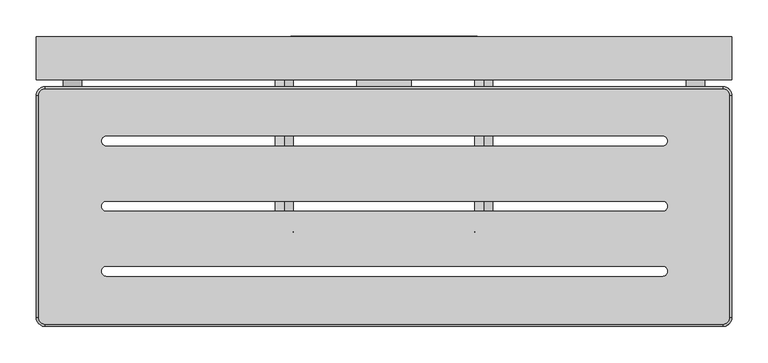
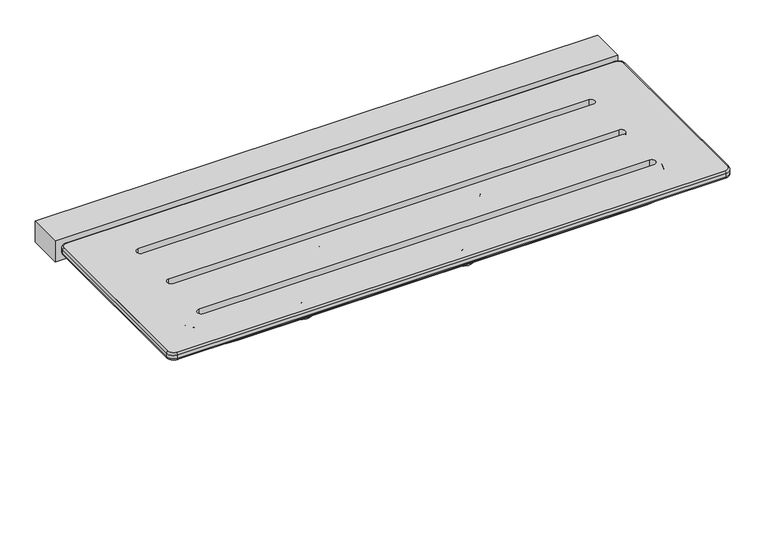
"""IFC4 building model written with IfcOpenShell, lengths in millimetres: proxy geometry, Shower Seat_Metlam_Folding_Guide Bracket : 960w x 400d x 295h (ML994)."""

from ifc_helpers import new_model, si_unit, point, frame, frame_2d, origin, place, context, project, spatial, polyline, circle_curve, ellipse_curve, trimmed, segment, composite_curve, outline, extrude, source, transform, mapped, element, save
from ifc_brep_helpers import plane_surface, cylinder_surface, revolved_surface, advanced_brep


def specialty_equipment_e2bc4629(model_context):
    return source(origin(), model_context, "Body", "SolidModel", [
        advanced_brep(
        [(-319.8282526, -259.8858079, 223.2607925), (-344.8282526, -259.8858079, 223.2607925), (-69.8282526, -259.8858079, 223.2607925), (-44.8282526, -259.8858079, 223.2607925), (-319.8282526, -244.1285308, 214.3232161), (-344.8282526, -244.1285308, 214.3232161), (-319.5782526, -222.165526, 201.8657317), (-319.5782526, -243.9110753, 214.1998747), (-70.0782526, -243.9110753, 214.1998747), (-70.0782526, -222.165526, 201.8657317), (-44.8282526, -244.1285308, 214.3232161), (-69.8282526, -244.1285308, 214.3232161)],
        [
            (0, 1, circle_curve(frame((-332.3282526, -259.8858079, 223.2607925), z_axis=(0.0, -0.8698219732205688, 0.4933657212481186), x_axis=(-1.0, 0.0, 0.0)), 12.5)),
            (1, 0, circle_curve(frame((-332.3282526, -259.8858079, 223.2607925), z_axis=(0.0, -0.8698219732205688, 0.4933657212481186), x_axis=(-1.0, 0.0, 0.0)), 12.5)),
            (2, 3, circle_curve(frame((-57.3282526, -259.8858079, 223.2607925), z_axis=(0.0, -0.8698219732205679, 0.4933657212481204), x_axis=(1.0, 0.0, 0.0)), 12.5)),
            (3, 2, circle_curve(frame((-57.3282526, -259.8858079, 223.2607925), z_axis=(0.0, -0.8698219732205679, 0.4933657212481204), x_axis=(1.0, 0.0, 0.0)), 12.5)),
            (0, 4),
            (4, 5, circle_curve(frame((-332.3282526, -244.1285308, 214.3232161), z_axis=(0.0, -0.8698219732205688, 0.4933657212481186), x_axis=(-1.0, 0.0, 0.0)), 12.5)),
            (5, 1),
            (5, 4, circle_curve(frame((-332.3282526, -244.1285308, 214.3232161), z_axis=(0.0, -0.8698219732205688, 0.4933657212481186), x_axis=(-1.0, 0.0, 0.0)), 12.5)),
            (6, 5, circle_curve(frame((-319.5782526, -244.1285308, 214.3232161), z_axis=(0.0, 0.4933657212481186, 0.8698219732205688), x_axis=(-1.0, 0.0, 0.0)), 25.25)),
            (4, 7, circle_curve(frame((-319.5782526, -244.1285308, 214.3232161), z_axis=(0.0, -0.4933657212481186, -0.8698219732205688), x_axis=(-1.0, 0.0, 0.0)), 0.25)),
            (7, 6, circle_curve(frame((-319.5782526, -233.0383007, 208.0328032), z_axis=(-1.0, 0.0, 0.0), x_axis=(0.0, 0.8698219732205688, -0.4933657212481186)), 12.5)),
            (6, 7, circle_curve(frame((-319.5782526, -233.0383007, 208.0328032), z_axis=(-1.0, 0.0, 0.0), x_axis=(0.0, 0.8698219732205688, -0.4933657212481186)), 12.5)),
            (7, 8),
            (8, 9, circle_curve(frame((-70.0782526, -233.0383007, 208.0328032), z_axis=(-1.0, 0.0, 0.0), x_axis=(0.0, 0.8698219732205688, -0.49336572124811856)), 12.5)),
            (9, 6),
            (9, 8, circle_curve(frame((-70.0782526, -233.0383007, 208.0328032), z_axis=(-1.0, 0.0, 0.0), x_axis=(0.0, 0.8698219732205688, -0.49336572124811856)), 12.5)),
            (10, 9, circle_curve(frame((-70.0782526, -244.1285308, 214.3232161), z_axis=(0.0, 0.4933657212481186, 0.8698219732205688), x_axis=(0.0, 0.8698219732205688, -0.4933657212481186)), 25.25)),
            (8, 11, circle_curve(frame((-70.0782526, -244.1285308, 214.3232161), z_axis=(0.0, -0.4933657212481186, -0.8698219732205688), x_axis=(0.0, 0.8698219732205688, -0.4933657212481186)), 0.25)),
            (11, 10, circle_curve(frame((-57.3282526, -244.1285308, 214.3232161), z_axis=(0.0, 0.8698219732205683, -0.4933657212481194), x_axis=(1.0000000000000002, 0.0, 0.0)), 12.5)),
            (10, 11, circle_curve(frame((-57.3282526, -244.1285308, 214.3232161), z_axis=(0.0, 0.8698219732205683, -0.4933657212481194), x_axis=(1.0000000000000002, 0.0, 0.0)), 12.5)),
            (11, 2),
            (3, 10),
        ],
        [
            plane_surface(frame((-332.3282526, -259.8859571, 223.2605295), z_axis=(0.0, -0.8698219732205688, 0.4933657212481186), x_axis=(0.0, 0.4933657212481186, 0.8698219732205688))),
            plane_surface(frame((-57.3282526, -259.8859571, 223.2605295), z_axis=(0.0, -0.8698219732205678, 0.4933657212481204), x_axis=(0.0, 0.4933657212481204, 0.8698219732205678))),
            cylinder_surface(frame((-332.3282526, -259.8858079, 223.2607925), z_axis=(0.0, -0.8698219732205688, 0.4933657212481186), x_axis=(-1.0, 0.0, 0.0)), 12.5),
            revolved_surface(trimmed(ellipse_curve(frame((-332.3282526, -244.1285308, 214.3232161), z_axis=(0.0, -0.8698219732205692, 0.49336572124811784), x_axis=(-1.0, 0.0, 0.0)), 12.5, 12.5), [point((-319.8282526, -244.1285308, 214.3232161))], [point((-344.8282526, -244.1285308, 214.3232161))], True, "CARTESIAN"), (-319.5782526, -244.12868, 214.3229531), (0.0, -0.4933657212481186, -0.8698219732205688)),
            revolved_surface(trimmed(ellipse_curve(frame((-332.3282526, -244.1285308, 214.3232161), z_axis=(0.0, -0.8698219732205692, 0.49336572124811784), x_axis=(-1.0, 0.0, 0.0)), 12.5, 12.5), [point((-344.8282526, -244.1285308, 214.3232161))], [point((-319.8282526, -244.1285308, 214.3232161))], True, "CARTESIAN"), (-319.5782526, -244.12868, 214.3229531), (0.0, -0.4933657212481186, -0.8698219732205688)),
            cylinder_surface(frame((-319.5782526, -233.0383007, 208.0328032), z_axis=(-1.0, 0.0, 0.0), x_axis=(0.0, 0.8698219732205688, -0.49336572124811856)), 12.5),
            revolved_surface(trimmed(ellipse_curve(frame((-70.0782526, -233.0383007, 208.0328032), z_axis=(-1.0000000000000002, 0.0, 0.0), x_axis=(0.0, 0.8698219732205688, -0.4933657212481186)), 12.5, 12.5), [point((-70.0782526, -243.9110753, 214.1998747))], [point((-70.0782526, -222.165526, 201.8657317))], True, "CARTESIAN"), (-70.0782526, -244.12868, 214.3229531), (0.0, -0.4933657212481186, -0.8698219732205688)),
            revolved_surface(trimmed(ellipse_curve(frame((-70.0782526, -233.0383007, 208.0328032), z_axis=(-1.0000000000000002, 0.0, 0.0), x_axis=(0.0, 0.8698219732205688, -0.4933657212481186)), 12.5, 12.5), [point((-70.0782526, -222.165526, 201.8657317))], [point((-70.0782526, -243.9110753, 214.1998747))], True, "CARTESIAN"), (-70.0782526, -244.12868, 214.3229531), (0.0, -0.4933657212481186, -0.8698219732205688)),
            cylinder_surface(frame((-57.3282526, -244.1285308, 214.3232161), z_axis=(0.0, 0.8698219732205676, -0.4933657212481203), x_axis=(1.0, 0.0, 0.0)), 12.5),
        ],
        [
            (0, [[1, 2]]),
            (1, [[3, 4]]),
            (2, [[-1, 5, 6, 7]]),
            (2, [[-2, -7, 8, -5]]),
            (3, [[9, -6, 10, 11]]),
            (4, [[-10, -8, -9, 12]]),
            (5, [[-11, 13, 14, 15]]),
            (5, [[-12, -15, 16, -13]]),
            (6, [[17, -14, 18, 19]]),
            (7, [[-18, -16, -17, 20]]),
            (8, [[-19, 21, -4, 22]]),
            (8, [[-20, -22, -3, -21]]),
        ],
    ),
        advanced_brep(
        [(-232.3282526, -323.4788188, 397.6081403), (-232.3282526, -319.6061703, 401.4807889), (-232.3282526, -227.3973081, 401.4807889), (-232.3282526, -222.9636972, 405.9143998), (-232.3282526, -222.9636972, 424.5206595), (-232.3282526, -220.8995044, 424.5206595), (-232.3282526, -220.8995044, 405.9143998), (-232.3282526, -227.3331153, 399.4807889), (-232.3282526, -290.6176067, 399.4807889), (-232.3282526, -290.6176067, 290.4673721), (-232.3282526, -289.2824441, 286.8369488), (-232.3282526, -242.2405245, 231.5317276), (-232.3282526, -231.6334303, 222.154967), (-232.3282526, -226.2684003, 218.6257089), (-232.3282526, -220.8196238, 205.1713333), (-232.3282526, -221.4186561, 199.7314093), (-232.3282526, -221.4186561, 180.0), (-232.3282526, -223.2117906, 180.0), (-232.3282526, -223.2117906, 194.5240233), (-232.3282526, -224.1808288, 195.2771128), (-232.3282526, -238.8758803, 195.2771128), (-232.3282526, -250.8677354, 200.2443018), (-232.3282526, -319.9824701, 269.3590365), (-232.3282526, -323.4788188, 278.1312848), (-157.3282526, -323.4788188, 397.6081403), (-157.3282526, -323.4788188, 278.1312848), (-157.3282526, -319.9824701, 269.3590365), (-157.3282526, -250.8677354, 200.2443018), (-157.3282526, -238.8758803, 195.2771128), (-157.3282526, -224.1808288, 195.2771128), (-157.3282526, -223.2117906, 194.5240233), (-157.3282526, -223.2117906, 180.0), (-157.3282526, -221.4186561, 180.0), (-157.3282526, -221.4186561, 199.7314093), (-157.3282526, -220.8196238, 205.1713333), (-157.3282526, -226.2684003, 218.6257089), (-157.3282526, -231.6334303, 222.154967), (-157.3282526, -242.2405245, 231.5317276), (-157.3282526, -289.2824441, 286.8369488), (-157.3282526, -290.6176067, 290.4673721), (-157.3282526, -290.6176067, 399.4807889), (-157.3282526, -227.3331153, 399.4807889), (-157.3282526, -220.8995044, 405.9143998), (-157.3282526, -220.8995044, 424.5206595), (-157.3282526, -222.9636972, 424.5206595), (-157.3282526, -222.9636972, 405.9143998), (-157.3282526, -227.3973081, 401.4807889), (-157.3282526, -319.6061703, 401.4807889), (-219.8327407, -221.4186561, 187.6120514), (-211.8237645, -221.4186561, 187.6120514), (-177.8327407, -221.4186561, 187.6120514), (-169.8237645, -221.4186561, 187.6120514), (-211.8237645, -223.2117906, 187.6120514), (-219.8327407, -223.2117906, 187.6120514), (-169.8237645, -223.2117906, 187.6120514), (-177.8327407, -223.2117906, 187.6120514), (-169.8282526, -222.9636972, 414.4697674), (-177.8282526, -222.9636972, 414.4697674), (-211.8282526, -222.9636972, 414.4697674), (-219.8282526, -222.9636972, 414.4697674), (-177.8282526, -220.8995044, 414.4697674), (-169.8282526, -220.8995044, 414.4697674), (-219.8282526, -220.8995044, 414.4697674), (-211.8282526, -220.8995044, 414.4697674)],
        [
            (0, 1, circle_curve(frame((-232.3282526, -319.6061703, 397.6081403), z_axis=(-1.0, 0.0, 0.0), x_axis=(0.0, 0.0, 1.0)), 3.8726485)),
            (1, 2),
            (2, 3, circle_curve(frame((-232.3282526, -227.3973081, 405.9143998), z_axis=(1.0, 0.0, 0.0), x_axis=(0.0, 0.0, 1.0)), 4.4336109)),
            (3, 4),
            (4, 5),
            (5, 6),
            (6, 7, circle_curve(frame((-232.3282526, -227.3331153, 405.9143998), z_axis=(-1.0, 0.0, 0.0), x_axis=(0.0, 0.0, 1.0)), 6.4336109)),
            (7, 8),
            (8, 9),
            (9, 10, circle_curve(frame((-232.3282526, -285.014307, 290.4673721), z_axis=(1.0, 0.0, 0.0), x_axis=(0.0, 0.0, 1.0)), 5.6032997)),
            (10, 11),
            (11, 12, circle_curve(frame((-232.3282526, -204.154599, 263.9271327), z_axis=(1.0, 0.0, 0.0), x_axis=(0.0, 0.0, 1.0)), 50.0)),
            (12, 13),
            (13, 14, circle_curve(frame((-232.3282526, -233.2901738, 207.9515035), z_axis=(-1.0, 0.0, 0.0), x_axis=(0.0, 0.0, 1.0)), 12.7766961)),
            (14, 15, circle_curve(frame((-232.3282526, -196.4186561, 199.7314093), z_axis=(1.0, 0.0, 0.0), x_axis=(0.0, 0.0, 1.0)), 25.0)),
            (15, 16),
            (16, 17),
            (17, 18),
            (18, 19, circle_curve(frame((-232.3282526, -224.1808288, 194.2771128), z_axis=(1.0, 0.0, 0.0), x_axis=(0.0, 0.0, 1.0)), 1.0)),
            (19, 20),
            (20, 21, circle_curve(frame((-232.3282526, -238.8758803, 212.2361568), z_axis=(-1.0, 0.0, 0.0), x_axis=(0.0, 0.0, 1.0)), 16.9590441)),
            (21, 22),
            (22, 23, circle_curve(frame((-232.3282526, -310.7259726, 278.1312848), z_axis=(-1.0, 0.0, 0.0), x_axis=(0.0, 0.0, 1.0)), 12.7528462)),
            (23, 0),
            (24, 25),
            (25, 26, circle_curve(frame((-157.3282526, -310.7259726, 278.1312848), z_axis=(1.0, 0.0, 0.0), x_axis=(0.0, 0.0, 1.0)), 12.7528462)),
            (26, 27),
            (27, 28, circle_curve(frame((-157.3282526, -238.8758803, 212.2361568), z_axis=(1.0, 0.0, 0.0), x_axis=(0.0, 0.0, 1.0)), 16.9590441)),
            (28, 29),
            (29, 30, circle_curve(frame((-157.3282526, -224.1808288, 194.2771128), z_axis=(-1.0, 0.0, 0.0), x_axis=(0.0, 0.0, 1.0)), 1.0)),
            (30, 31),
            (31, 32),
            (32, 33),
            (33, 34, circle_curve(frame((-157.3282526, -196.4186561, 199.7314093), z_axis=(-1.0, 0.0, 0.0), x_axis=(0.0, 0.0, 1.0)), 25.0)),
            (34, 35, circle_curve(frame((-157.3282526, -233.2901738, 207.9515035), z_axis=(1.0, 0.0, 0.0), x_axis=(0.0, 0.0, 1.0)), 12.7766961)),
            (35, 36),
            (36, 37, circle_curve(frame((-157.3282526, -204.154599, 263.9271327), z_axis=(-1.0, 0.0, 0.0), x_axis=(0.0, 0.0, 1.0)), 50.0)),
            (37, 38),
            (38, 39, circle_curve(frame((-157.3282526, -285.014307, 290.4673721), z_axis=(-1.0, 0.0, 0.0), x_axis=(0.0, 0.0, 1.0)), 5.6032997)),
            (39, 40),
            (40, 41),
            (41, 42, circle_curve(frame((-157.3282526, -227.3331153, 405.9143998), z_axis=(1.0, 0.0, 0.0), x_axis=(0.0, 0.0, 1.0)), 6.4336109)),
            (42, 43),
            (43, 44),
            (44, 45),
            (45, 46, circle_curve(frame((-157.3282526, -227.3973081, 405.9143998), z_axis=(-1.0, 0.0, 0.0), x_axis=(0.0, 0.0, 1.0)), 4.4336109)),
            (46, 47),
            (47, 24, circle_curve(frame((-157.3282526, -319.6061703, 397.6081403), z_axis=(1.0, 0.0, 0.0), x_axis=(0.0, 0.0, 1.0)), 3.8726485)),
            (21, 27),
            (26, 22),
            (25, 23),
            (24, 0),
            (47, 1),
            (8, 40),
            (39, 9),
            (38, 10),
            (37, 11),
            (46, 2),
            (7, 41),
            (15, 33),
            (32, 16),
            (48, 49, circle_curve(frame((-215.8282526, -221.4186561, 187.6120514), z_axis=(0.0, -1.0, 0.0), x_axis=(1.0, 0.0, 0.0)), 4.0044881)),
            (49, 48, circle_curve(frame((-215.8282526, -221.4186561, 187.6120514), z_axis=(0.0, -1.0, 0.0), x_axis=(1.0, 0.0, 0.0)), 4.0044881)),
            (50, 51, circle_curve(frame((-173.8282526, -221.4186561, 187.6120514), z_axis=(0.0, -1.0, 0.0), x_axis=(1.0, 0.0, 0.0)), 4.0044881)),
            (51, 50, circle_curve(frame((-173.8282526, -221.4186561, 187.6120514), z_axis=(0.0, -1.0, 0.0), x_axis=(1.0, 0.0, 0.0)), 4.0044881)),
            (17, 31),
            (30, 18),
            (52, 53, circle_curve(frame((-215.8282526, -223.2117906, 187.6120514), z_axis=(0.0, 1.0, 0.0), x_axis=(1.0, 0.0, 0.0)), 4.0044881)),
            (53, 52, circle_curve(frame((-215.8282526, -223.2117906, 187.6120514), z_axis=(0.0, 1.0, 0.0), x_axis=(1.0, 0.0, 0.0)), 4.0044881)),
            (54, 55, circle_curve(frame((-173.8282526, -223.2117906, 187.6120514), z_axis=(0.0, 1.0, 0.0), x_axis=(1.0, 0.0, 0.0)), 4.0044881)),
            (55, 54, circle_curve(frame((-173.8282526, -223.2117906, 187.6120514), z_axis=(0.0, 1.0, 0.0), x_axis=(1.0, 0.0, 0.0)), 4.0044881)),
            (29, 19),
            (28, 20),
            (45, 3),
            (44, 4),
            (56, 57, circle_curve(frame((-173.8282526, -222.9636972, 414.4697674), z_axis=(0.0, 1.0, 0.0), x_axis=(1.0, 0.0, 0.0)), 4.0)),
            (57, 56, circle_curve(frame((-173.8282526, -222.9636972, 414.4697674), z_axis=(0.0, 1.0, 0.0), x_axis=(1.0, 0.0, 0.0)), 4.0)),
            (58, 59, circle_curve(frame((-215.8282526, -222.9636972, 414.4697674), z_axis=(0.0, 1.0, 0.0), x_axis=(1.0, 0.0, 0.0)), 4.0)),
            (59, 58, circle_curve(frame((-215.8282526, -222.9636972, 414.4697674), z_axis=(0.0, 1.0, 0.0), x_axis=(1.0, 0.0, 0.0)), 4.0)),
            (43, 5),
            (42, 6),
            (60, 61, circle_curve(frame((-173.8282526, -220.8995044, 414.4697674), z_axis=(0.0, -1.0, 0.0), x_axis=(1.0, 0.0, 0.0)), 4.0)),
            (61, 60, circle_curve(frame((-173.8282526, -220.8995044, 414.4697674), z_axis=(0.0, -1.0, 0.0), x_axis=(1.0, 0.0, 0.0)), 4.0)),
            (62, 63, circle_curve(frame((-215.8282526, -220.8995044, 414.4697674), z_axis=(0.0, -1.0, 0.0), x_axis=(1.0, 0.0, 0.0)), 4.0)),
            (63, 62, circle_curve(frame((-215.8282526, -220.8995044, 414.4697674), z_axis=(0.0, -1.0, 0.0), x_axis=(1.0, 0.0, 0.0)), 4.0)),
            (12, 36),
            (35, 13),
            (34, 14),
            (60, 57),
            (56, 61),
            (62, 59),
            (58, 63),
            (48, 53),
            (52, 49),
            (50, 55),
            (54, 51),
        ],
        [
            plane_surface(frame((-232.3282526, -319.6061703, 401.4807889), z_axis=(-1.0, 0.0, 0.0), x_axis=(0.0, 1.0, 0.0))),
            plane_surface(frame((-157.3282526, -319.6061703, 401.4807889), z_axis=(1.0, 0.0, 0.0), x_axis=(0.0, -1.0, 0.0))),
            plane_surface(frame((-232.3282526, -250.8677354, 200.2443018), z_axis=(0.0, -0.7071067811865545, -0.7071067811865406), x_axis=(1.0, 0.0, 0.0))),
            cylinder_surface(frame((-157.3282526, -310.7259726, 278.1312848), z_axis=(-1.0, 0.0, 0.0), x_axis=(0.0, 0.0, 1.0)), 12.7528462),
            plane_surface(frame((-232.3282526, -323.4788188, 278.1312848), z_axis=(0.0, -1.0, 0.0), x_axis=(1.0, 0.0, 0.0))),
            cylinder_surface(frame((-157.3282526, -319.6061703, 397.6081403), z_axis=(-1.0, 0.0, 0.0), x_axis=(0.0, 0.0, 1.0)), 3.8726485),
            plane_surface(frame((-232.3282526, -290.6176067, 399.4807889), z_axis=(0.0, 1.0, 0.0), x_axis=(1.0, 0.0, 0.0))),
            revolved_surface(polyline([(-157.3282526, -285.014307, 296.07067179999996), (-232.3282526, -285.014307, 296.07067179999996)]), (-157.3282526, -285.014307, 290.4673721), (1.0, 0.0, 0.0)),
            plane_surface(frame((-232.3282526, -289.2824441, 286.8369488), z_axis=(0.0, 0.7617185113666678, 0.6479081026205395), x_axis=(1.0, 0.0, 0.0))),
            plane_surface(frame((-232.3282526, -319.6061703, 401.4807889), z_axis=(0.0, 0.0, 1.0), x_axis=(1.0, 0.0, 0.0))),
            plane_surface(frame((-232.3282526, -227.3331153, 399.4807889), z_axis=(0.0, 0.0, -1.0), x_axis=(1.0, 0.0, 0.0))),
            plane_surface(frame((-232.3282526, -221.4186561, 199.7314093), z_axis=(0.0, 1.0, 0.0), x_axis=(1.0, 0.0, 0.0))),
            plane_surface(frame((-232.3282526, -223.2117906, 180.0), z_axis=(0.0, -1.0, 0.0), x_axis=(1.0, 0.0, 0.0))),
            revolved_surface(polyline([(-157.3282526, -224.1808288, 195.2771128), (-232.3282526, -224.1808288, 195.2771128)]), (-157.3282526, -224.1808288, 194.2771128), (1.0, 0.0, 0.0)),
            plane_surface(frame((-232.3282526, -224.1808288, 195.2771128), z_axis=(0.0, 0.0, -1.0), x_axis=(1.0, 0.0, 0.0))),
            revolved_surface(polyline([(-157.3282526, -227.3973081, 410.34801070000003), (-232.3282526, -227.3973081, 410.34801070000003)]), (-157.3282526, -227.3973081, 405.9143998), (1.0, 0.0, 0.0)),
            plane_surface(frame((-232.3282526, -222.9636972, 405.9143998), z_axis=(0.0, -1.0, 0.0), x_axis=(1.0, 0.0, 0.0))),
            plane_surface(frame((-232.3282526, -222.9636972, 424.5206595), z_axis=(0.0, 0.0, 1.0), x_axis=(1.0, 0.0, 0.0))),
            plane_surface(frame((-232.3282526, -220.8995044, 424.5206595), z_axis=(0.0, 1.0, 0.0), x_axis=(1.0, 0.0, 0.0))),
            cylinder_surface(frame((-157.3282526, -227.3331153, 405.9143998), z_axis=(-1.0, 0.0, 0.0), x_axis=(0.0, 0.0, 1.0)), 6.4336109),
            plane_surface(frame((-232.3282526, -231.6334303, 222.154967), z_axis=(0.0, 0.5495766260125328, 0.8354433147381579), x_axis=(1.0, 0.0, 0.0))),
            cylinder_surface(frame((-157.3282526, -233.2901738, 207.9515035), z_axis=(-1.0, 0.0, 0.0), x_axis=(0.0, 0.0, 1.0)), 12.7766961),
            plane_surface(frame((-232.3282526, -221.4186561, 180.0), z_axis=(0.0, 0.0, -1.0), x_axis=(1.0, 0.0, 0.0))),
            revolved_surface(polyline([(-157.3282526, -204.154599, 313.9271327), (-232.3282526, -204.154599, 313.9271327)]), (-157.3282526, -204.154599, 263.9271327), (1.0, 0.0, 0.0)),
            revolved_surface(polyline([(-157.3282526, -196.4186561, 224.7314093), (-232.3282526, -196.4186561, 224.7314093)]), (-157.3282526, -196.4186561, 199.7314093), (1.0, 0.0, 0.0)),
            cylinder_surface(frame((-157.3282526, -238.8758803, 212.2361568), z_axis=(-1.0, 0.0, 0.0), x_axis=(0.0, 0.0, 1.0)), 16.9590441),
            revolved_surface(polyline([(-169.8282526, -222.9636972, 414.4697674), (-169.8282526, -220.8995044, 414.4697674)]), (-173.8282526, -214.4267535, 414.4697674), (0.0, -1.0, 0.0)),
            revolved_surface(polyline([(-211.8282526, -222.9636972, 414.4697674), (-211.8282526, -220.8995044, 414.4697674)]), (-215.8282526, -392.9986044, 414.4697674), (0.0, -1.0, 0.0)),
            revolved_surface(polyline([(-211.8237645, -223.2117906, 187.6120514), (-211.8237645, -221.4186561, 187.6120514)]), (-215.8282526, -392.9986044, 187.6120514), (0.0, -1.0, 0.0)),
            revolved_surface(polyline([(-169.8237645, -223.2117906, 187.6120514), (-169.8237645, -221.4186561, 187.6120514)]), (-173.8282526, -392.9986044, 187.6120514), (0.0, -1.0, 0.0)),
        ],
        [
            (0, [[1, 2, 3, 4, 5, 6, 7, 8, 9, 10, 11, 12, 13, 14, 15, 16, 17, 18, 19, 20, 21, 22, 23, 24]]),
            (1, [[25, 26, 27, 28, 29, 30, 31, 32, 33, 34, 35, 36, 37, 38, 39, 40, 41, 42, 43, 44, 45, 46, 47, 48]]),
            (2, [[-22, 49, -27, 50]]),
            (3, [[-23, -50, -26, 51]]),
            (4, [[-24, -51, -25, 52]]),
            (5, [[-1, -52, -48, 53]]),
            (6, [[-9, 54, -40, 55]]),
            (7, [[-10, -55, -39, 56]]),
            (8, [[-11, -56, -38, 57]]),
            (9, [[-2, -53, -47, 58]]),
            (10, [[-8, 59, -41, -54]]),
            (11, [[-16, 60, -33, 61], [62, 63], [64, 65]]),
            (12, [[-18, 66, -31, 67], [68, 69], [70, 71]]),
            (13, [[-19, -67, -30, 72]]),
            (14, [[-20, -72, -29, 73]]),
            (15, [[-3, -58, -46, 74]]),
            (16, [[-4, -74, -45, 75], [76, 77], [78, 79]]),
            (17, [[-5, -75, -44, 80]]),
            (18, [[-6, -80, -43, 81], [82, 83], [84, 85]]),
            (19, [[-7, -81, -42, -59]]),
            (20, [[-13, 86, -36, 87]]),
            (21, [[-14, -87, -35, 88]]),
            (22, [[-17, -61, -32, -66]]),
            (23, [[-12, -57, -37, -86]]),
            (24, [[-15, -88, -34, -60]]),
            (25, [[-21, -73, -28, -49]]),
            (26, [[89, -76, 90, -82]]),
            (26, [[-89, -83, -90, -77]]),
            (27, [[91, -78, 92, -84]]),
            (27, [[-91, -85, -92, -79]]),
            (28, [[93, -68, 94, -62]]),
            (28, [[-93, -63, -94, -69]]),
            (29, [[95, -70, 96, -64]]),
            (29, [[-95, -65, -96, -71]]),
        ],
    ),
        advanced_brep(
        [(285.1488978, -608.3995044, 465.4605858), (282.6488978, -608.3995044, 462.0), (282.6488978, -302.7745044, 462.0), (285.1488978, -302.7745044, 465.4605858), (285.1488978, -608.3995044, 471.5), (285.1488978, -302.7745044, 471.5), (282.6488978, -608.3995044, 475.0), (282.6488978, -302.7745044, 475.0), (272.6488978, -290.2745044, 465.4605858), (272.6488978, -292.7745044, 462.0), (-662.3282526, -292.7745044, 462.0), (-662.3282526, -290.2745044, 465.4605858), (272.6488978, -290.2745044, 471.5), (-662.3282526, -290.2745044, 471.5), (272.6488978, -292.7745044, 475.0), (-662.3282526, -292.7745044, 475.0), (-674.8282526, -302.7745044, 465.4605858), (-672.3282526, -302.7745044, 462.0), (-672.3282526, -608.3995044, 462.0), (-674.8282526, -608.3995044, 465.4605858), (-674.8282526, -302.7745044, 471.5), (-674.8282526, -608.3995044, 471.5), (-672.3282526, -302.7745044, 475.0), (-672.3282526, -608.3995044, 475.0), (-662.3282526, -620.8995044, 465.4605858), (-662.3282526, -618.3995044, 462.0), (272.6488978, -618.3995044, 462.0), (272.6488978, -620.8995044, 465.4605858), (-662.3282526, -620.8995044, 471.5), (272.6488978, -620.8995044, 471.5), (-662.3282526, -618.3995044, 475.0), (272.6488978, -618.3995044, 475.0)],
        [
            (0, 1, circle_curve(frame((281.503767, -608.3995044, 465.4605858), z_axis=(0.0, 1.0, 0.0), x_axis=(-1.0, 0.0, 0.0)), 3.6451308)),
            (1, 2),
            (2, 3, circle_curve(frame((281.503767, -302.7745044, 465.4605858), z_axis=(0.0, -1.0, 0.0), x_axis=(-1.0, 0.0, 0.0)), 3.6451308)),
            (3, 0),
            (4, 0),
            (3, 5),
            (5, 4),
            (6, 4, circle_curve(frame((281.4488978, -608.3995044, 471.5), z_axis=(0.0, 1.0, 0.0), x_axis=(-1.0, 0.0, 0.0)), 3.7)),
            (5, 7, circle_curve(frame((281.4488978, -302.7745044, 471.5), z_axis=(0.0, -1.0, 0.0), x_axis=(-1.0, 0.0, 0.0)), 3.7)),
            (7, 6),
            (1, 6),
            (7, 2),
            (8, 9, circle_curve(frame((272.6488978, -293.9196352, 465.4605858), z_axis=(-1.0, 0.0, 0.0), x_axis=(0.0, -1.0, 0.0)), 3.6451308)),
            (9, 10),
            (10, 11, circle_curve(frame((-662.3282526, -293.9196352, 465.4605858), z_axis=(1.0, 0.0, 0.0), x_axis=(0.0, -1.0, 0.0)), 3.6451308)),
            (11, 8),
            (12, 8),
            (11, 13),
            (13, 12),
            (14, 12, circle_curve(frame((272.6488978, -293.9745044, 471.5), z_axis=(-1.0, 0.0, 0.0), x_axis=(0.0, -1.0, 0.0)), 3.7)),
            (13, 15, circle_curve(frame((-662.3282526, -293.9745044, 471.5), z_axis=(1.0, 0.0, 0.0), x_axis=(0.0, -1.0, 0.0)), 3.7)),
            (15, 14),
            (9, 14),
            (15, 10),
            (16, 17, circle_curve(frame((-671.1831218, -302.7745044, 465.4605858), z_axis=(0.0, -1.0, 0.0), x_axis=(1.0, 0.0, 0.0)), 3.6451308)),
            (17, 18),
            (18, 19, circle_curve(frame((-671.1831218, -608.3995044, 465.4605858), z_axis=(0.0, 1.0, 0.0), x_axis=(1.0, 0.0, 0.0)), 3.6451308)),
            (19, 16),
            (20, 16),
            (19, 21),
            (21, 20),
            (22, 20, circle_curve(frame((-671.1282526, -302.7745044, 471.5), z_axis=(0.0, -1.0, 0.0), x_axis=(1.0, 0.0, 0.0)), 3.7)),
            (21, 23, circle_curve(frame((-671.1282526, -608.3995044, 471.5), z_axis=(0.0, 1.0, 0.0), x_axis=(1.0, 0.0, 0.0)), 3.7)),
            (23, 22),
            (17, 22),
            (23, 18),
            (24, 25, circle_curve(frame((-662.3282526, -617.2543736, 465.4605858), z_axis=(1.0, 0.0, 0.0), x_axis=(0.0, 1.0, 0.0)), 3.6451308)),
            (25, 26),
            (26, 27, circle_curve(frame((272.6488978, -617.2543736, 465.4605858), z_axis=(-1.0, 0.0, 0.0), x_axis=(0.0, 1.0, 0.0)), 3.6451308)),
            (27, 24),
            (28, 24),
            (27, 29),
            (29, 28),
            (30, 28, circle_curve(frame((-662.3282526, -617.1995044, 471.5), z_axis=(1.0, 0.0, 0.0), x_axis=(0.0, 1.0, 0.0)), 3.7)),
            (29, 31, circle_curve(frame((272.6488978, -617.1995044, 471.5), z_axis=(-1.0, 0.0, 0.0), x_axis=(0.0, 1.0, 0.0)), 3.7)),
            (31, 30),
            (25, 30),
            (31, 26),
            (0, 27, circle_curve(frame((272.6488978, -608.3995044, 465.4605858), z_axis=(0.0, 0.0, -1.0), x_axis=(0.0, -1.0, 0.0)), 12.5)),
            (26, 1, circle_curve(frame((272.6488978, -608.3995044, 462.0), z_axis=(0.0, 0.0, 1.0), x_axis=(0.0, -1.0, 0.0)), 10.0)),
            (4, 29, circle_curve(frame((272.6488978, -608.3995044, 471.5), z_axis=(0.0, 0.0, -1.0), x_axis=(0.0, -1.0, 0.0)), 12.5)),
            (6, 31, circle_curve(frame((272.6488978, -608.3995044, 475.0), z_axis=(0.0, 0.0, -1.0), x_axis=(0.0, -1.0, 0.0)), 10.0)),
            (8, 3, circle_curve(frame((272.6488978, -302.7745044, 465.4605858), z_axis=(0.0, 0.0, -1.0), x_axis=(1.0, 0.0, 0.0)), 12.5)),
            (2, 9, circle_curve(frame((272.6488978, -302.7745044, 462.0), z_axis=(0.0, 0.0, 1.0), x_axis=(1.0, 0.0, 0.0)), 10.0)),
            (12, 5, circle_curve(frame((272.6488978, -302.7745044, 471.5), z_axis=(0.0, 0.0, -1.0), x_axis=(1.0, 0.0, 0.0)), 12.5)),
            (14, 7, circle_curve(frame((272.6488978, -302.7745044, 475.0), z_axis=(0.0, 0.0, -1.0), x_axis=(1.0, 0.0, 0.0)), 10.0)),
            (16, 11, circle_curve(frame((-662.3282526, -302.7745044, 465.4605858), z_axis=(0.0, 0.0, -1.0), x_axis=(0.0, 1.0, 0.0)), 12.5)),
            (10, 17, circle_curve(frame((-662.3282526, -302.7745044, 462.0), z_axis=(0.0, 0.0, 1.0), x_axis=(0.0, 1.0, 0.0)), 10.0)),
            (20, 13, circle_curve(frame((-662.3282526, -302.7745044, 471.5), z_axis=(0.0, 0.0, -1.0), x_axis=(0.0, 1.0, 0.0)), 12.5)),
            (22, 15, circle_curve(frame((-662.3282526, -302.7745044, 475.0), z_axis=(0.0, 0.0, -1.0), x_axis=(0.0, 1.0, 0.0)), 10.0)),
            (24, 19, circle_curve(frame((-662.3282526, -608.3995044, 465.4605858), z_axis=(0.0, 0.0, -1.0), x_axis=(-1.0, 0.0, 0.0)), 12.5)),
            (18, 25, circle_curve(frame((-662.3282526, -608.3995044, 462.0), z_axis=(0.0, 0.0, 1.0), x_axis=(-1.0, 0.0, 0.0)), 10.0)),
            (28, 21, circle_curve(frame((-662.3282526, -608.3995044, 471.5), z_axis=(0.0, 0.0, -1.0), x_axis=(-1.0, 0.0, 0.0)), 12.5)),
            (30, 23, circle_curve(frame((-662.3282526, -608.3995044, 475.0), z_axis=(0.0, 0.0, -1.0), x_axis=(-1.0, 0.0, 0.0)), 10.0)),
        ],
        [
            cylinder_surface(frame((281.503767, -608.3995044, 465.4605858), z_axis=(0.0, -1.0, 0.0), x_axis=(-1.0, 0.0, 0.0)), 3.6451308),
            plane_surface(frame((285.1488978, -608.3995044, 465.4605858), z_axis=(1.0, 0.0, 0.0), x_axis=(0.0, 1.0, 0.0))),
            cylinder_surface(frame((281.4488978, -608.3995044, 471.5), z_axis=(0.0, -1.0, 0.0), x_axis=(-1.0, 0.0, 0.0)), 3.7),
            plane_surface(frame((282.6488978, -608.3995044, 475.0), z_axis=(-1.0, 0.0, 0.0), x_axis=(0.0, 1.0, 0.0))),
            cylinder_surface(frame((272.6488978, -293.9196352, 465.4605858), z_axis=(1.0, 0.0, 0.0), x_axis=(0.0, -1.0, 0.0)), 3.6451308),
            plane_surface(frame((272.6488978, -290.2745044, 465.4605858), z_axis=(0.0, 1.0, 0.0), x_axis=(-1.0, 0.0, 0.0))),
            cylinder_surface(frame((272.6488978, -293.9745044, 471.5), z_axis=(1.0, 0.0, 0.0), x_axis=(0.0, -1.0, 0.0)), 3.7),
            plane_surface(frame((272.6488978, -292.7745044, 475.0), z_axis=(0.0, -1.0, 0.0), x_axis=(-1.0, 0.0, 0.0))),
            cylinder_surface(frame((-671.1831218, -302.7745044, 465.4605858), z_axis=(0.0, 1.0, 0.0), x_axis=(1.0, 0.0, 0.0)), 3.6451308),
            plane_surface(frame((-674.8282526, -302.7745044, 465.4605858), z_axis=(-1.0, 0.0, 0.0), x_axis=(0.0, -1.0, 0.0))),
            cylinder_surface(frame((-671.1282526, -302.7745044, 471.5), z_axis=(0.0, 1.0, 0.0), x_axis=(1.0, 0.0, 0.0)), 3.7),
            plane_surface(frame((-672.3282526, -302.7745044, 475.0), z_axis=(1.0, 0.0, 0.0), x_axis=(0.0, -1.0, 0.0))),
            cylinder_surface(frame((-662.3282526, -617.2543736, 465.4605858), z_axis=(-1.0, 0.0, 0.0), x_axis=(0.0, 1.0, 0.0)), 3.6451308),
            plane_surface(frame((-662.3282526, -620.8995044, 465.4605858), z_axis=(0.0, -1.0, 0.0), x_axis=(1.0, 0.0, 0.0))),
            cylinder_surface(frame((-662.3282526, -617.1995044, 471.5), z_axis=(-1.0, 0.0, 0.0), x_axis=(0.0, 1.0, 0.0)), 3.7),
            plane_surface(frame((-662.3282526, -618.3995044, 475.0), z_axis=(0.0, 1.0, 0.0), x_axis=(1.0, 0.0, 0.0))),
            revolved_surface(trimmed(ellipse_curve(frame((272.6488978, -617.2543736, 465.4605858), z_axis=(-1.0, 0.0, 0.0), x_axis=(0.0, 1.0, 0.0)), 3.6451308, 3.6451308), [point((272.6488978, -618.3995044, 462.0))], [point((272.6488978, -620.8995044, 465.4605858))], True, "CARTESIAN"), (272.6488978, -608.3995044, 475.0), (0.0, 0.0, 1.0)),
            cylinder_surface(frame((272.6488978, -608.3995044, 475.0), z_axis=(0.0, 0.0, 1.0), x_axis=(0.0, -1.0, 0.0)), 12.5),
            revolved_surface(trimmed(ellipse_curve(frame((272.6488978, -617.1995044, 471.5), z_axis=(-1.0, 0.0, 0.0), x_axis=(0.0, 1.0, 0.0)), 3.7, 3.7), [point((272.6488978, -620.8995044, 471.5))], [point((272.6488978, -618.3995044, 475.0))], True, "CARTESIAN"), (272.6488978, -608.3995044, 475.0), (0.0, 0.0, 1.0)),
            revolved_surface(polyline([(272.6488978, -618.3995044, 475.0), (272.6488978, -618.3995044, 462.0)]), (272.6488978, -608.3995044, 475.0), (0.0, 0.0, 1.0)),
            revolved_surface(trimmed(ellipse_curve(frame((281.503767, -302.7745044, 465.4605858), z_axis=(0.0, -1.0, 0.0), x_axis=(-1.0, 0.0, 0.0)), 3.6451308, 3.6451308), [point((282.6488978, -302.7745044, 462.0))], [point((285.1488978, -302.7745044, 465.4605858))], True, "CARTESIAN"), (272.6488978, -302.7745044, 475.0), (0.0, 0.0, 1.0)),
            cylinder_surface(frame((272.6488978, -302.7745044, 475.0), z_axis=(0.0, 0.0, 1.0), x_axis=(1.0, 0.0, 0.0)), 12.5),
            revolved_surface(trimmed(ellipse_curve(frame((281.4488978, -302.7745044, 471.5), z_axis=(0.0, -1.0, 0.0), x_axis=(-1.0, 0.0, 0.0)), 3.7, 3.7), [point((285.1488978, -302.7745044, 471.5))], [point((282.6488978, -302.7745044, 475.0))], True, "CARTESIAN"), (272.6488978, -302.7745044, 475.0), (0.0, 0.0, 1.0)),
            revolved_surface(polyline([(282.6488978, -302.7745044, 475.0), (282.6488978, -302.7745044, 462.0)]), (272.6488978, -302.7745044, 475.0), (0.0, 0.0, 1.0)),
            revolved_surface(trimmed(ellipse_curve(frame((-662.3282526, -293.9196352, 465.4605858), z_axis=(1.0, 0.0, 0.0), x_axis=(0.0, -1.0, 0.0)), 3.6451308, 3.6451308), [point((-662.3282526, -292.7745044, 462.0))], [point((-662.3282526, -290.2745044, 465.4605858))], True, "CARTESIAN"), (-662.3282526, -302.7745044, 475.0), (0.0, 0.0, 1.0)),
            cylinder_surface(frame((-662.3282526, -302.7745044, 475.0), z_axis=(0.0, 0.0, 1.0), x_axis=(0.0, 1.0, 0.0)), 12.5),
            revolved_surface(trimmed(ellipse_curve(frame((-662.3282526, -293.9745044, 471.5), z_axis=(1.0, 0.0, 0.0), x_axis=(0.0, -1.0, 0.0)), 3.7, 3.7), [point((-662.3282526, -290.2745044, 471.5))], [point((-662.3282526, -292.7745044, 475.0))], True, "CARTESIAN"), (-662.3282526, -302.7745044, 475.0), (0.0, 0.0, 1.0)),
            revolved_surface(polyline([(-662.3282526, -292.7745044, 475.0), (-662.3282526, -292.7745044, 462.0)]), (-662.3282526, -302.7745044, 475.0), (0.0, 0.0, 1.0)),
            revolved_surface(trimmed(ellipse_curve(frame((-671.1831218, -608.3995044, 465.4605858), z_axis=(0.0, 1.0, 0.0), x_axis=(1.0, 0.0, 0.0)), 3.6451308, 3.6451308), [point((-672.3282526, -608.3995044, 462.0))], [point((-674.8282526, -608.3995044, 465.4605858))], True, "CARTESIAN"), (-662.3282526, -608.3995044, 475.0), (0.0, 0.0, 1.0)),
            cylinder_surface(frame((-662.3282526, -608.3995044, 475.0), z_axis=(0.0, 0.0, 1.0), x_axis=(-1.0, 0.0, 0.0)), 12.5),
            revolved_surface(trimmed(ellipse_curve(frame((-671.1282526, -608.3995044, 471.5), z_axis=(0.0, 1.0, 0.0), x_axis=(1.0, 0.0, 0.0)), 3.7, 3.7), [point((-674.8282526, -608.3995044, 471.5))], [point((-672.3282526, -608.3995044, 475.0))], True, "CARTESIAN"), (-662.3282526, -608.3995044, 475.0), (0.0, 0.0, 1.0)),
            revolved_surface(polyline([(-672.3282526, -608.3995044, 475.0), (-672.3282526, -608.3995044, 462.0)]), (-662.3282526, -608.3995044, 475.0), (0.0, 0.0, 1.0)),
        ],
        [
            (0, [[1, 2, 3, 4]]),
            (1, [[5, -4, 6, 7]]),
            (2, [[8, -7, 9, 10]]),
            (3, [[11, -10, 12, -2]]),
            (4, [[13, 14, 15, 16]]),
            (5, [[17, -16, 18, 19]]),
            (6, [[20, -19, 21, 22]]),
            (7, [[23, -22, 24, -14]]),
            (8, [[25, 26, 27, 28]]),
            (9, [[29, -28, 30, 31]]),
            (10, [[32, -31, 33, 34]]),
            (11, [[35, -34, 36, -26]]),
            (12, [[37, 38, 39, 40]]),
            (13, [[41, -40, 42, 43]]),
            (14, [[44, -43, 45, 46]]),
            (15, [[47, -46, 48, -38]]),
            (16, [[49, -39, 50, -1]]),
            (17, [[51, -42, -49, -5]]),
            (18, [[52, -45, -51, -8]]),
            (19, [[-50, -48, -52, -11]]),
            (20, [[53, -3, 54, -13]]),
            (21, [[55, -6, -53, -17]]),
            (22, [[56, -9, -55, -20]]),
            (23, [[-54, -12, -56, -23]]),
            (24, [[57, -15, 58, -25]]),
            (25, [[59, -18, -57, -29]]),
            (26, [[60, -21, -59, -32]]),
            (27, [[-58, -24, -60, -35]]),
            (28, [[61, -27, 62, -37]]),
            (29, [[63, -30, -61, -41]]),
            (30, [[64, -33, -63, -44]]),
            (31, [[-62, -36, -64, -47]]),
        ],
    ),
        advanced_brep(
        [(-637.3282526, -280.7227045, 449.4726562), (-612.3282526, -280.7227045, 449.4726562), (-637.3282526, -505.2745044, 449.4726562), (-612.3282526, -505.2745044, 449.4726562), (-544.8282526, -572.7745044, 449.4726562), (-544.8282526, -597.7745044, 449.4726562), (155.1488978, -597.7745044, 449.4726562), (155.1488978, -572.7745044, 449.4726562), (222.6488978, -505.2745044, 449.4726562), (247.6488978, -505.2745044, 449.4726562), (247.6488978, -280.7227045, 449.4726562), (222.6488978, -280.7227045, 449.4726562)],
        [
            (0, 1, circle_curve(frame((-624.8282526, -280.7227045, 449.4726562), z_axis=(0.0, 1.0, 0.0), x_axis=(1.0, 0.0, 0.0)), 12.5)),
            (1, 0, circle_curve(frame((-624.8282526, -280.7227045, 449.4726562), z_axis=(0.0, 1.0, 0.0), x_axis=(1.0, 0.0, 0.0)), 12.5)),
            (0, 2),
            (2, 3, circle_curve(frame((-624.8282526, -505.2745044, 449.4726562), z_axis=(0.0, 1.0, 0.0), x_axis=(1.0, 0.0, 0.0)), 12.5)),
            (3, 1),
            (3, 2, circle_curve(frame((-624.8282526, -505.2745044, 449.4726562), z_axis=(0.0, 1.0, 0.0), x_axis=(1.0, 0.0, 0.0)), 12.5)),
            (4, 3, circle_curve(frame((-544.8282526, -505.2745044, 449.4726562), z_axis=(0.0, 0.0, -1.0), x_axis=(-1.0, 0.0, 0.0)), 67.5)),
            (2, 5, circle_curve(frame((-544.8282526, -505.2745044, 449.4726562), z_axis=(0.0, 0.0, 1.0), x_axis=(-1.0, 0.0, 0.0)), 92.5)),
            (5, 4, circle_curve(frame((-544.8282526, -585.2745044, 449.4726562), z_axis=(-1.0, 0.0, 0.0), x_axis=(0.0, 1.0, 0.0)), 12.5)),
            (4, 5, circle_curve(frame((-544.8282526, -585.2745044, 449.4726562), z_axis=(-1.0, 0.0, 0.0), x_axis=(0.0, 1.0, 0.0)), 12.5)),
            (5, 6),
            (6, 7, circle_curve(frame((155.1488978, -585.2745044, 449.4726562), z_axis=(-1.0, 0.0, 0.0), x_axis=(0.0, 1.0, 0.0)), 12.5)),
            (7, 4),
            (7, 6, circle_curve(frame((155.1488978, -585.2745044, 449.4726562), z_axis=(-1.0, 0.0, 0.0), x_axis=(0.0, 1.0, 0.0)), 12.5)),
            (8, 7, circle_curve(frame((155.1488978, -505.2745044, 449.4726562), z_axis=(0.0, 0.0, -1.0), x_axis=(0.0, -1.0, 0.0)), 67.5)),
            (6, 9, circle_curve(frame((155.1488978, -505.2745044, 449.4726562), z_axis=(0.0, 0.0, 1.0), x_axis=(0.0, -1.0, 0.0)), 92.5)),
            (9, 8, circle_curve(frame((235.1488978, -505.2745044, 449.4726562), z_axis=(0.0, -1.0, 0.0), x_axis=(-1.0, 0.0, 0.0)), 12.5)),
            (8, 9, circle_curve(frame((235.1488978, -505.2745044, 449.4726562), z_axis=(0.0, -1.0, 0.0), x_axis=(-1.0, 0.0, 0.0)), 12.5)),
            (10, 11, circle_curve(frame((235.1488978, -280.7227045, 449.4726562), z_axis=(0.0, 1.0, 0.0), x_axis=(-1.0, 0.0, 0.0)), 12.5)),
            (11, 10, circle_curve(frame((235.1488978, -280.7227045, 449.4726562), z_axis=(0.0, 1.0, 0.0), x_axis=(-1.0, 0.0, 0.0)), 12.5)),
            (9, 10),
            (11, 8),
        ],
        [
            plane_surface(frame((-624.8282526, -280.7227045, 475.0), z_axis=(0.0, 1.0, 0.0), x_axis=(0.0, 0.0, 1.0))),
            cylinder_surface(frame((-624.8282526, -280.7227045, 449.4726562), z_axis=(0.0, 1.0, 0.0), x_axis=(1.0, 0.0, 0.0)), 12.5),
            revolved_surface(trimmed(ellipse_curve(frame((-624.8282526, -505.2745044, 449.4726562), z_axis=(0.0, 1.0, 0.0), x_axis=(1.0, 0.0, 0.0)), 12.5, 12.5), [point((-637.3282526, -505.2745044, 449.4726562))], [point((-612.3282526, -505.2745044, 449.4726562))], True, "CARTESIAN"), (-544.8282526, -505.2745044, 475.0), (0.0, 0.0, 1.0)),
            revolved_surface(trimmed(ellipse_curve(frame((-624.8282526, -505.2745044, 449.4726562), z_axis=(0.0, 1.0, 0.0), x_axis=(1.0, 0.0, 0.0)), 12.5, 12.5), [point((-612.3282526, -505.2745044, 449.4726562))], [point((-637.3282526, -505.2745044, 449.4726562))], True, "CARTESIAN"), (-544.8282526, -505.2745044, 475.0), (0.0, 0.0, 1.0)),
            cylinder_surface(frame((-544.8282526, -585.2745044, 449.4726562), z_axis=(-1.0, 0.0, 0.0), x_axis=(0.0, 1.0, 0.0)), 12.5),
            revolved_surface(trimmed(ellipse_curve(frame((155.1488978, -585.2745044, 449.4726562), z_axis=(-1.0, 0.0, 0.0), x_axis=(0.0, 1.0, 0.0)), 12.5, 12.5), [point((155.1488978, -597.7745044, 449.4726562))], [point((155.1488978, -572.7745044, 449.4726562))], True, "CARTESIAN"), (155.1488978, -505.2745044, 475.0), (0.0, 0.0, 1.0)),
            revolved_surface(trimmed(ellipse_curve(frame((155.1488978, -585.2745044, 449.4726562), z_axis=(-1.0, 0.0, 0.0), x_axis=(0.0, 1.0, 0.0)), 12.5, 12.5), [point((155.1488978, -572.7745044, 449.4726562))], [point((155.1488978, -597.7745044, 449.4726562))], True, "CARTESIAN"), (155.1488978, -505.2745044, 475.0), (0.0, 0.0, 1.0)),
            plane_surface(frame((235.1488978, -280.7227045, 475.0), z_axis=(0.0, 1.0, 0.0), x_axis=(0.0, 0.0, 1.0))),
            cylinder_surface(frame((235.1488978, -505.2745044, 449.4726562), z_axis=(0.0, -1.0, 0.0), x_axis=(-1.0, 0.0, 0.0)), 12.5),
        ],
        [
            (0, [[1, 2]]),
            (1, [[-1, 3, 4, 5]]),
            (1, [[-2, -5, 6, -3]]),
            (2, [[7, -4, 8, 9]]),
            (3, [[-8, -6, -7, 10]]),
            (4, [[-9, 11, 12, 13]]),
            (4, [[-10, -13, 14, -11]]),
            (5, [[15, -12, 16, 17]]),
            (6, [[-16, -14, -15, 18]]),
            (7, [[19, 20]]),
            (8, [[-17, 21, -20, 22]]),
            (8, [[-18, -22, -19, -21]]),
        ],
    ),
        extrude(outline(polyline([(-232.3282526, -290.6313056), (-232.3282526, -256.7515818), (-157.3282526, -256.7515818), (-157.3282526, -290.6313056), (-232.3282526, -290.6313056)])), frame((0.0, 0.0, 290.1611338), z_axis=(0.0, 0.0, 1.0), x_axis=(1.0, 0.0, 0.0)), (0.0, 0.0, 1.0), 49.8222179),
        extrude(outline(polyline([(-674.8282526, -280.7227045), (-674.8282526, -220.8995044), (285.1717474, -220.8995044), (285.1717474, -280.7227045), (-674.8282526, -280.7227045)])), frame((0.0, 0.0, 437.1177597), z_axis=(0.0, 0.0, 1.0), x_axis=(1.0, 0.0, 0.0)), (0.0, 0.0, 1.0), 37.8823298),
        advanced_brep(
        [(-57.3282526, -479.2163939, 473.0779263), (-57.3282526, -502.4905244, 463.9502295), (-57.3282526, -427.8835221, 342.1875197), (-57.3282526, -451.1576526, 333.0598228), (-57.3282526, -253.7190583, 234.1334021), (-57.3282526, -266.0164845, 212.3670678), (-57.3282526, -423.715892, 301.4632293), (-57.3282526, -411.4184658, 323.2295636)],
        [
            (0, 1, circle_curve(frame((-57.3282526, -490.8534592, 468.5140779), z_axis=(0.0, -0.36510787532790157, 0.9309652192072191), x_axis=(0.0, -0.9309652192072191, -0.36510787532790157)), 12.5)),
            (1, 0, circle_curve(frame((-57.3282526, -490.8534592, 468.5140779), z_axis=(0.0, -0.36510787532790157, 0.9309652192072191), x_axis=(0.0, -0.9309652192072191, -0.36510787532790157)), 12.5)),
            (0, 2),
            (2, 3, circle_curve(frame((-57.3282526, -439.5205873, 337.6236712), z_axis=(0.0, -0.36510787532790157, 0.9309652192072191), x_axis=(0.0, -0.9309652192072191, -0.36510787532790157)), 12.5)),
            (3, 1),
            (3, 2, circle_curve(frame((-57.3282526, -439.5205873, 337.6236712), z_axis=(0.0, -0.36510787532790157, 0.9309652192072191), x_axis=(0.0, -0.9309652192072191, -0.36510787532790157)), 12.5)),
            (4, 5, circle_curve(frame((-57.3282526, -259.8677714, 223.250235), z_axis=(0.0, 0.8706533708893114, -0.491897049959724), x_axis=(0.0, -0.491897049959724, -0.8706533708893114)), 12.5)),
            (5, 4, circle_curve(frame((-57.3282526, -259.8677714, 223.250235), z_axis=(0.0, 0.8706533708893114, -0.491897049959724), x_axis=(0.0, -0.491897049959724, -0.8706533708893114)), 12.5)),
            (6, 7, circle_curve(frame((-57.3282526, -417.5671789, 312.3463965), z_axis=(0.0, 0.8706533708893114, -0.491897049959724), x_axis=(0.0, -0.491897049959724, -0.8706533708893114)), 12.5)),
            (7, 4),
            (5, 6),
            (7, 6, circle_curve(frame((-57.3282526, -417.5671789, 312.3463965), z_axis=(0.0, 0.8706533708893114, -0.491897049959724), x_axis=(0.0, -0.491897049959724, -0.8706533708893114)), 12.5)),
            (6, 3, circle_curve(frame((-57.3282526, -392.9723264, 355.879065), z_axis=(-1.0, 0.0, 0.0), x_axis=(0.0, -0.9309652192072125, -0.3651078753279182)), 62.5)),
            (2, 7, circle_curve(frame((-57.3282526, -392.9723264, 355.879065), z_axis=(1.0, 0.0, 0.0), x_axis=(0.0, -0.9309652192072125, -0.3651078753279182)), 37.5)),
        ],
        [
            plane_surface(frame((170.6127162, -490.8534592, 468.5140779), z_axis=(0.0, -0.36510787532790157, 0.9309652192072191), x_axis=(-1.0, 0.0, 0.0))),
            cylinder_surface(frame((-57.3282526, -490.8534592, 468.5140779), z_axis=(0.0, -0.36510787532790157, 0.9309652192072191), x_axis=(0.0, -0.9309652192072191, -0.36510787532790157)), 12.5),
            plane_surface(frame((170.6127162, -259.8677714, 223.250235), z_axis=(0.0, 0.8706533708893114, -0.49189704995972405), x_axis=(-1.0, 0.0, 0.0))),
            cylinder_surface(frame((-57.3282526, -417.5671789, 312.3463965), z_axis=(0.0, -0.8706533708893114, 0.491897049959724), x_axis=(0.0, -0.491897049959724, -0.8706533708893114)), 12.5),
            revolved_surface(trimmed(ellipse_curve(frame((-57.3282526, -439.5205873, 337.6236712), z_axis=(0.0, -0.3651078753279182, 0.9309652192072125), x_axis=(0.0, -0.9309652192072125, -0.3651078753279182)), 12.5, 12.5), [point((-57.3282526, -427.8835221, 342.1875197))], [point((-57.3282526, -451.1576526, 333.0598228))], True, "CARTESIAN"), (170.6127162, -392.9723264, 355.879065), (1.0, 0.0, 0.0)),
            revolved_surface(trimmed(ellipse_curve(frame((-57.3282526, -439.5205873, 337.6236712), z_axis=(0.0, -0.3651078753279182, 0.9309652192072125), x_axis=(0.0, -0.9309652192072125, -0.3651078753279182)), 12.5, 12.5), [point((-57.3282526, -451.1576526, 333.0598228))], [point((-57.3282526, -427.8835221, 342.1875197))], True, "CARTESIAN"), (170.6127162, -392.9723264, 355.879065), (1.0, 0.0, 0.0)),
        ],
        [
            (0, [[1, 2]]),
            (1, [[-1, 3, 4, 5]]),
            (1, [[-2, -5, 6, -3]]),
            (2, [[7, 8]]),
            (3, [[9, 10, -8, 11]]),
            (3, [[12, -11, -7, -10]]),
            (4, [[13, -4, 14, -9]]),
            (5, [[-14, -6, -13, -12]]),
        ],
    ),
        advanced_brep(
        [(-332.3282526, -502.4905244, 463.9502295), (-332.3282526, -479.2163939, 473.0779263), (-332.3282526, -427.8835221, 342.1875197), (-332.3282526, -451.1576526, 333.0598228), (-332.3282526, -266.0164845, 212.3670678), (-332.3282526, -253.7190583, 234.1334021), (-332.3282526, -423.715892, 301.4632293), (-332.3282526, -411.4184658, 323.2295636)],
        [
            (0, 1, circle_curve(frame((-332.3282526, -490.8534592, 468.5140779), z_axis=(0.0, -0.3651078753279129, 0.9309652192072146), x_axis=(0.0, 0.9309652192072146, 0.3651078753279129)), 12.5)),
            (1, 0, circle_curve(frame((-332.3282526, -490.8534592, 468.5140779), z_axis=(0.0, -0.3651078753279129, 0.9309652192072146), x_axis=(0.0, 0.9309652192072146, 0.3651078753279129)), 12.5)),
            (1, 2),
            (2, 3, circle_curve(frame((-332.3282526, -439.5205873, 337.6236712), z_axis=(0.0, -0.3651078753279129, 0.9309652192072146), x_axis=(0.0, 0.9309652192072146, 0.3651078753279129)), 12.5)),
            (3, 0),
            (3, 2, circle_curve(frame((-332.3282526, -439.5205873, 337.6236712), z_axis=(0.0, -0.3651078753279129, 0.9309652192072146), x_axis=(0.0, 0.9309652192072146, 0.3651078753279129)), 12.5)),
            (4, 5, circle_curve(frame((-332.3282526, -259.8677714, 223.250235), z_axis=(0.0, 0.8706533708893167, -0.49189704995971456), x_axis=(0.0, 0.49189704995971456, 0.8706533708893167)), 12.5)),
            (5, 4, circle_curve(frame((-332.3282526, -259.8677714, 223.250235), z_axis=(0.0, 0.8706533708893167, -0.49189704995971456), x_axis=(0.0, 0.49189704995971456, 0.8706533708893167)), 12.5)),
            (6, 7, circle_curve(frame((-332.3282526, -417.5671789, 312.3463965), z_axis=(0.0, 0.8706533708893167, -0.49189704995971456), x_axis=(0.0, 0.49189704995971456, 0.8706533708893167)), 12.5)),
            (7, 5),
            (4, 6),
            (7, 6, circle_curve(frame((-332.3282526, -417.5671789, 312.3463965), z_axis=(0.0, 0.8706533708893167, -0.49189704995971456), x_axis=(0.0, 0.49189704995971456, 0.8706533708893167)), 12.5)),
            (7, 2, circle_curve(frame((-332.3282526, -392.9723264, 355.879065), z_axis=(-1.0, 0.0, 0.0), x_axis=(0.0, -0.9309652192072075, -0.3651078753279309)), 37.5)),
            (3, 6, circle_curve(frame((-332.3282526, -392.9723264, 355.879065), z_axis=(1.0, 0.0, 0.0), x_axis=(0.0, -0.9309652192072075, -0.3651078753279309)), 62.5)),
        ],
        [
            plane_surface(frame((-560.2692214, -490.8534592, 468.5140779), z_axis=(0.0, -0.3651078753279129, 0.9309652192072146), x_axis=(1.0, 0.0, 0.0))),
            cylinder_surface(frame((-332.3282526, -490.8534592, 468.5140779), z_axis=(0.0, -0.3651078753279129, 0.9309652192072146), x_axis=(0.0, 0.9309652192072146, 0.3651078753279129)), 12.5),
            plane_surface(frame((-560.2692214, -259.8677714, 223.250235), z_axis=(0.0, 0.8706533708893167, -0.49189704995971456), x_axis=(1.0, 0.0, 0.0))),
            cylinder_surface(frame((-332.3282526, -417.5671789, 312.3463965), z_axis=(0.0, -0.8706533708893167, 0.49189704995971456), x_axis=(0.0, 0.49189704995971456, 0.8706533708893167)), 12.5),
            revolved_surface(trimmed(ellipse_curve(frame((-332.3282526, -439.5205873, 337.6236712), z_axis=(0.0, -0.3651078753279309, 0.9309652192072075), x_axis=(0.0, 0.9309652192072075, 0.3651078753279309)), 12.5, 12.5), [point((-332.3282526, -451.1576526, 333.0598228))], [point((-332.3282526, -427.8835221, 342.1875197))], True, "CARTESIAN"), (-560.2692214, -392.9723264, 355.879065), (1.0, 0.0, 0.0)),
            revolved_surface(trimmed(ellipse_curve(frame((-332.3282526, -439.5205873, 337.6236712), z_axis=(0.0, -0.3651078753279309, 0.9309652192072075), x_axis=(0.0, 0.9309652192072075, 0.3651078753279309)), 12.5, 12.5), [point((-332.3282526, -427.8835221, 342.1875197))], [point((-332.3282526, -451.1576526, 333.0598228))], True, "CARTESIAN"), (-560.2692214, -392.9723264, 355.879065), (1.0, 0.0, 0.0)),
        ],
        [
            (0, [[1, 2]]),
            (1, [[-2, 3, 4, 5]]),
            (1, [[-1, -5, 6, -3]]),
            (2, [[7, 8]]),
            (3, [[9, 10, -7, 11]]),
            (3, [[12, -11, -8, -10]]),
            (4, [[13, -6, 14, -12]]),
            (5, [[-14, -4, -13, -9]]),
        ],
    ),
        extrude(outline(composite_curve([segment(trimmed(circle_curve(frame_2d((-662.3282526, -608.3995044)), 10.0), [point((-662.3282526, -618.3995044))], [point((-672.3282526, -608.3995044))], False, "CARTESIAN"), True, "CONTINUOUS"), segment(polyline([(-672.3282526, -608.3995044), (-672.3282526, -302.7745044)]), True, "CONTINUOUS"), segment(trimmed(circle_curve(frame_2d((-662.3282526, -302.7745044)), 10.0), [point((-672.3282526, -302.7745044))], [point((-662.3282526, -292.7745044))], False, "CARTESIAN"), True, "CONTINUOUS"), segment(polyline([(-662.3282526, -292.7745044), (272.6488978, -292.7745044)]), True, "CONTINUOUS"), segment(trimmed(circle_curve(frame_2d((272.6488978, -302.7745044)), 10.0), [point((272.6488978, -292.7745044))], [point((282.6488978, -302.7745044))], False, "CARTESIAN"), True, "CONTINUOUS"), segment(polyline([(282.6488978, -302.7745044), (282.6488978, -608.3995044)]), True, "CONTINUOUS"), segment(trimmed(circle_curve(frame_2d((272.6488978, -608.3995044)), 10.0), [point((282.6488978, -608.3995044))], [point((272.6488978, -618.3995044))], False, "CARTESIAN"), True, "CONTINUOUS"), segment(polyline([(272.6488978, -618.3995044), (-662.3282526, -618.3995044)]), True, "CONTINUOUS")], self_intersect=False), holes=[composite_curve([segment(polyline([(189.9710276, -358.645807), (-578.1063873, -358.645807)]), True, "CONTINUOUS"), segment(trimmed(circle_curve(frame_2d((-578.1063873, -365.1693779)), 6.5235708), [point((-578.1063873, -358.645807))], [point((-578.1063873, -371.6929487))], True, "CARTESIAN"), True, "CONTINUOUS"), segment(polyline([(-578.1063873, -371.6929487), (189.9710276, -371.6929487)]), True, "CONTINUOUS"), segment(trimmed(circle_curve(frame_2d((189.9710276, -365.1693779)), 6.5235708), [point((189.9710276, -371.6929487))], [point((189.9710276, -358.645807))], True, "CARTESIAN"), True, "CONTINUOUS")], self_intersect=False), composite_curve([segment(polyline([(189.948178, -448.6390949), (-578.1292369, -448.6390949)]), True, "CONTINUOUS"), segment(trimmed(circle_curve(frame_2d((-578.1292369, -455.1598096)), 6.5207146), [point((-578.1292369, -448.6390949))], [point((-578.1292369, -461.6805242))], True, "CARTESIAN"), True, "CONTINUOUS"), segment(polyline([(-578.1292369, -461.6805242), (189.948178, -461.6805242)]), True, "CONTINUOUS"), segment(trimmed(circle_curve(frame_2d((189.948178, -455.1598096)), 6.5207146), [point((189.948178, -461.6805242))], [point((189.948178, -448.6390949))], True, "CARTESIAN"), True, "CONTINUOUS")], self_intersect=False), composite_curve([segment(polyline([(189.9710276, -538.4267361), (-578.1063873, -538.4267361)]), True, "CONTINUOUS"), segment(trimmed(circle_curve(frame_2d((-578.1063873, -544.9474508)), 6.5207146), [point((-578.1063873, -538.4267361))], [point((-578.1063873, -551.4681654))], True, "CARTESIAN"), True, "CONTINUOUS"), segment(polyline([(-578.1063873, -551.4681654), (189.9710276, -551.4681654)]), True, "CONTINUOUS"), segment(trimmed(circle_curve(frame_2d((189.9710276, -544.9474508)), 6.5207146), [point((189.9710276, -551.4681654))], [point((189.9710276, -538.4267361))], True, "CARTESIAN"), True, "CONTINUOUS")], self_intersect=False)]), frame((0.0, 0.0, 461.9794003), z_axis=(0.0, 0.0, 1.0), x_axis=(1.0, 0.0, 0.0)), (0.0, 0.0, 1.0), 13.0205997),
    ])


if __name__ == "__main__":
    model = new_model("IFC4")
    model_context = context("Model", 3, world=origin())
    ifc_project = project(units=[si_unit("LENGTHUNIT", "METRE", prefix="MILLI")], contexts=[model_context])
    site = spatial("IfcSite", under=ifc_project)
    building = spatial("IfcBuilding", under=site)
    placement = place(None, origin())
    specialty_equipment_shape = specialty_equipment_e2bc4629(model_context)
    element("IfcBuildingElementProxy", 1, Name="Shower Seat_Metlam_Folding_Guide Bracket : 960w x 400d x 295h (ML994)", ObjectType="Shower Seat_Metlam_Folding_Guide Bracket : 960w x 400d x 295h (ML994)", at=placement, inside=building, context=model_context, shape_type="MappedRepresentation", body=[
        mapped(specialty_equipment_shape, transform((0.0, 0.0, 0.0), x_axis=(1.0, 0.0, 0.0), y_axis=(0.0, 1.0, 0.0), z_axis=(0.0, 0.0, 1.0))),
    ])
    save(model, "model.ifc")
